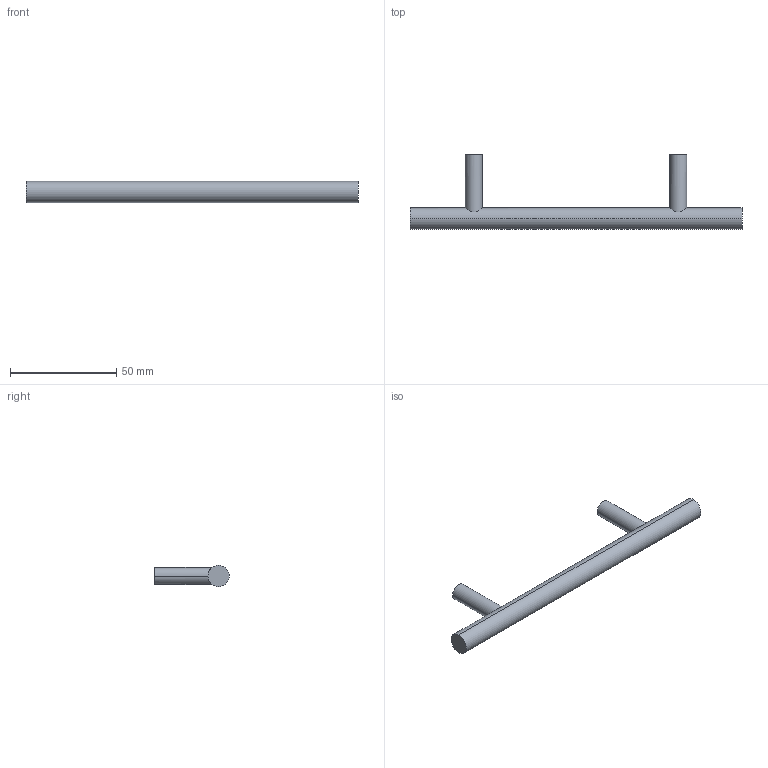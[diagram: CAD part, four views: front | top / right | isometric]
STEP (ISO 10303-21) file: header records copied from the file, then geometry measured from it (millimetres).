
FILE_DESCRIPTION( ( '' ), '1' );
FILE_NAME( 'D:/1.AUTOCAD EXPORT/Group 10/sheet_10_1/9070967.stp', '2013-10-21T10:34:24', ( '' ), ( '' ), ' ', ' ', ' ' );
FILE_SCHEMA( ( 'automotive_design' ) );
Length unit declared in the file: millimetre
Products named in the file (1): 1
Bounding box: 156 x 35 x 10 mm (x, y, z)
Volume: 14508.2 mm3; surface area: 6652.2 mm2
Topology: 1 solids, 1 shells, 16 faces, 32 edges, 22 vertices
Faces by surface type: cylinder 10, plane 6
Entity records: 972 total; most frequent: CARTESIAN_POINT 205, DIRECTION 76, STYLED_ITEM 71, PRESENTATION_STYLE_ASSIGNMENT 71, COLOUR_RGB 71, ORIENTED_EDGE 64, AXIS2_PLACEMENT_3D 33, EDGE_CURVE 32
